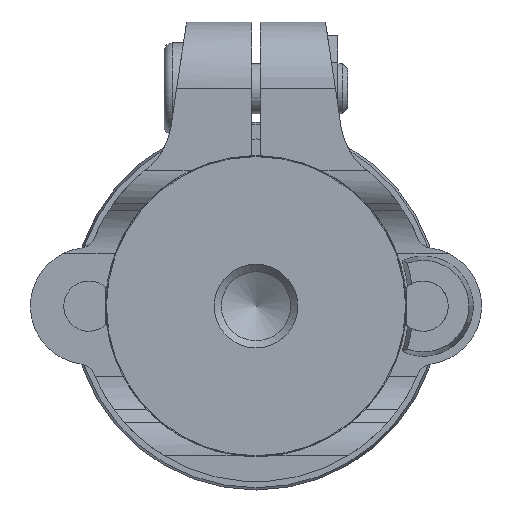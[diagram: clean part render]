
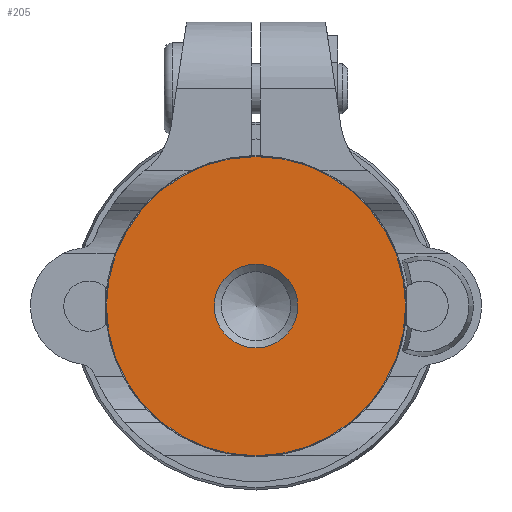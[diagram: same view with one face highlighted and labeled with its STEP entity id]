
A CAD part, front view. The second image highlights one B-rep face of the part: STEP entity #205.
In plain terms, the highlighted planar face has unit normal (0, -1, 0).
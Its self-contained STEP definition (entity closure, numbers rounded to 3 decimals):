
#205 = ADVANCED_FACE( '', ( #505, #506 ), #507, .F. );
#505 = FACE_BOUND( '', #942, .T. );
#506 = FACE_OUTER_BOUND( '', #943, .T. );
#507 = PLANE( '', #944 );
#942 = EDGE_LOOP( '', ( #1390 ) );
#943 = EDGE_LOOP( '', ( #1391 ) );
#944 = AXIS2_PLACEMENT_3D( '', #1392, #1393, #1394 );
#1390 = ORIENTED_EDGE( '', *, *, #2505, .F. );
#1391 = ORIENTED_EDGE( '', *, *, #2506, .T. );
#1392 = CARTESIAN_POINT( '', ( 8.95, -38.5, 0. ) );
#1393 = DIRECTION( '', ( 0., 1., 0. ) );
#1394 = DIRECTION( '', ( 0., 0., 1. ) );
#2505 = EDGE_CURVE( '', #2961, #2961, #2962, .T. );
#2506 = EDGE_CURVE( '', #2963, #2963, #2964, .T. );
#2961 = VERTEX_POINT( '', #3646 );
#2962 = CIRCLE( '', #3647, 2.5 );
#2963 = VERTEX_POINT( '', #3648 );
#2964 = CIRCLE( '', #3649, 8.95 );
#3646 = CARTESIAN_POINT( '', ( 0., -38.5, -2.5 ) );
#3647 = AXIS2_PLACEMENT_3D( '', #4661, #4662, #4663 );
#3648 = CARTESIAN_POINT( '', ( 0., -38.5, -8.95 ) );
#3649 = AXIS2_PLACEMENT_3D( '', #4664, #4665, #4666 );
#4661 = CARTESIAN_POINT( '', ( 0., -38.5, 0. ) );
#4662 = DIRECTION( '', ( 0., -1., 0. ) );
#4663 = DIRECTION( '', ( 0., 0., -1. ) );
#4664 = CARTESIAN_POINT( '', ( 0., -38.5, 0. ) );
#4665 = DIRECTION( '', ( 0., -1., 0. ) );
#4666 = DIRECTION( '', ( 0., 0., -1. ) );
